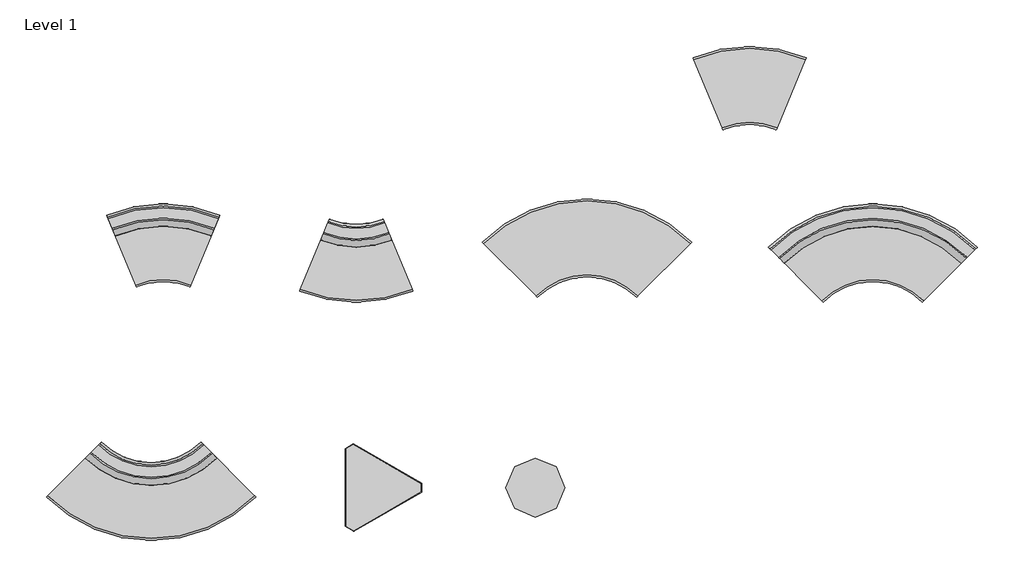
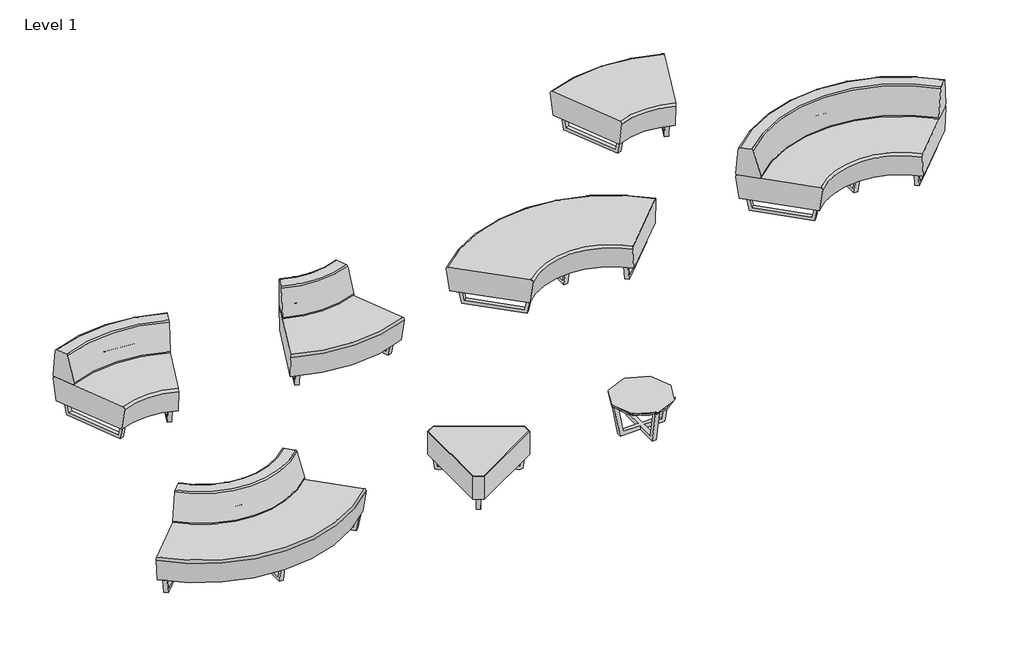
# One storey, incomplete: 8 furniture elements.
"""IFC4 building model written with IfcOpenShell, lengths in millimetres."""

from ifc_helpers import new_model, si_unit, origin, place, context, project, spatial, transform, mapped, element, save
from components import furniture_fa0442d4, furniture_e1e32eb0, furniture_442ccac9, furniture_4fde7079, furniture_880f4501, furniture_19859e92, furniture_84fadc13, furniture_1e2bf395

model = new_model("IFC4")

# Units and contexts
model_context = context("Model", 3, world=origin())
ifc_project = project(units=[si_unit("LENGTHUNIT", "METRE", prefix="MILLI")], contexts=[model_context])

# Site, building, storey
site = spatial("IfcSite", under=ifc_project)
building = spatial("IfcBuilding", under=site)
storey = spatial("IfcBuildingStorey", under=building, Name="Level 1", Elevation=0.0)

# Furniture
placement = place(None, origin())
furniture_shape = furniture_fa0442d4(model_context)
element("IfcFurniture", 1, ObjectType="Furniture-Sofa-LyndonDesign-Us_US_7 : Furniture-Sofa-LyndonDesign-Us_US_7", at=placement, inside=storey, context=model_context, shape_type="MappedRepresentation", body=[
    mapped(furniture_shape, transform((6277.6035132, 1771.95734, 0.0), x_axis=(1.0, 0.0, 0.0), y_axis=(0.0, 1.0, 0.0), z_axis=(0.0, 0.0, 1.0))),
])
furniture_2_shape = furniture_e1e32eb0(model_context)
element("IfcFurniture", 2, ObjectType="Furniture-Sofa-LyndonDesign-Us_US_8 : Furniture-Sofa-LyndonDesign-Us_US_8", at=placement, inside=storey, context=model_context, shape_type="MappedRepresentation", body=[
    mapped(furniture_2_shape, transform((280.740276, 164.0526976, 0.0), x_axis=(1.0, 0.0, 0.0), y_axis=(0.0, 1.0, 0.0), z_axis=(0.0, 0.0, 1.0))),
])
furniture_3_shape = furniture_442ccac9(model_context)
element("IfcFurniture", 3, ObjectType="Furniture-Sofa-LyndonDesign-Us_US_9 : Furniture-Sofa-LyndonDesign-Us_US_9", at=placement, inside=storey, context=model_context, shape_type="MappedRepresentation", body=[
    mapped(furniture_3_shape, transform((2254.391468, 681.6185696, 0.0), x_axis=(1.0, 0.0, 0.0), y_axis=(0.0, 1.0, 0.0), z_axis=(0.0, 0.0, 1.0))),
])
furniture_4_shape = furniture_4fde7079(model_context)
element("IfcFurniture", 4, ObjectType="Furniture-Sofa-LyndonDesign-Us_US_10 : Furniture-Sofa-LyndonDesign-Us_US_10", at=placement, inside=storey, context=model_context, shape_type="MappedRepresentation", body=[
    mapped(furniture_4_shape, transform((4614.4918444, 212.3588457, 0.0), x_axis=(1.0, 0.0, 0.0), y_axis=(0.0, 1.0, 0.0), z_axis=(0.0, 0.0, 1.0))),
])
furniture_5_shape = furniture_880f4501(model_context)
element("IfcFurniture", 5, ObjectType="Furniture-Sofa-LyndonDesign-Us_US_11 : Furniture-Sofa-LyndonDesign-Us_US_11", at=placement, inside=storey, context=model_context, shape_type="MappedRepresentation", body=[
    mapped(furniture_5_shape, transform((7537.814631, 164.0526976, 0.0), x_axis=(1.0, 0.0, 0.0), y_axis=(0.0, 1.0, 0.0), z_axis=(0.0, 0.0, 1.0))),
])
furniture_6_shape = furniture_19859e92(model_context)
element("IfcFurniture", 6, ObjectType="Furniture-Sofa-LyndonDesign-Us_US_12 : Furniture-Sofa-LyndonDesign-Us_US_12", at=placement, inside=storey, context=model_context, shape_type="MappedRepresentation", body=[
    mapped(furniture_6_shape, transform((156.5244668, -1754.0844808, 0.0), x_axis=(1.0, 0.0, 0.0), y_axis=(0.0, 1.0, 0.0), z_axis=(0.0, 0.0, 1.0))),
])
furniture_7_shape = furniture_84fadc13(model_context)
element("IfcFurniture", 7, ObjectType="Furniture-Sofa-LyndonDesign-Us_US_13 : Furniture-Sofa-LyndonDesign-Us_US_13", at=placement, inside=storey, context=model_context, shape_type="MappedRepresentation", body=[
    mapped(furniture_7_shape, transform((2140.3367005, -1977.5545924, 0.0), x_axis=(1.0, 0.0, 0.0), y_axis=(0.0, 1.0, 0.0), z_axis=(0.0, 0.0, 1.0))),
])
furniture_8_shape = furniture_1e2bf395(model_context)
element("IfcFurniture", 8, ObjectType="Furniture-Sofa-LyndonDesign-Us_US_25 : Furniture-Sofa-LyndonDesign-Us_US_25", at=placement, inside=storey, context=model_context, shape_type="MappedRepresentation", body=[
    mapped(furniture_8_shape, transform((4085.7841907, -1977.5545924, 0.0), x_axis=(1.0, 0.0, 0.0), y_axis=(0.0, 1.0, 0.0), z_axis=(0.0, 0.0, 1.0))),
])

save(model, "model.ifc")
